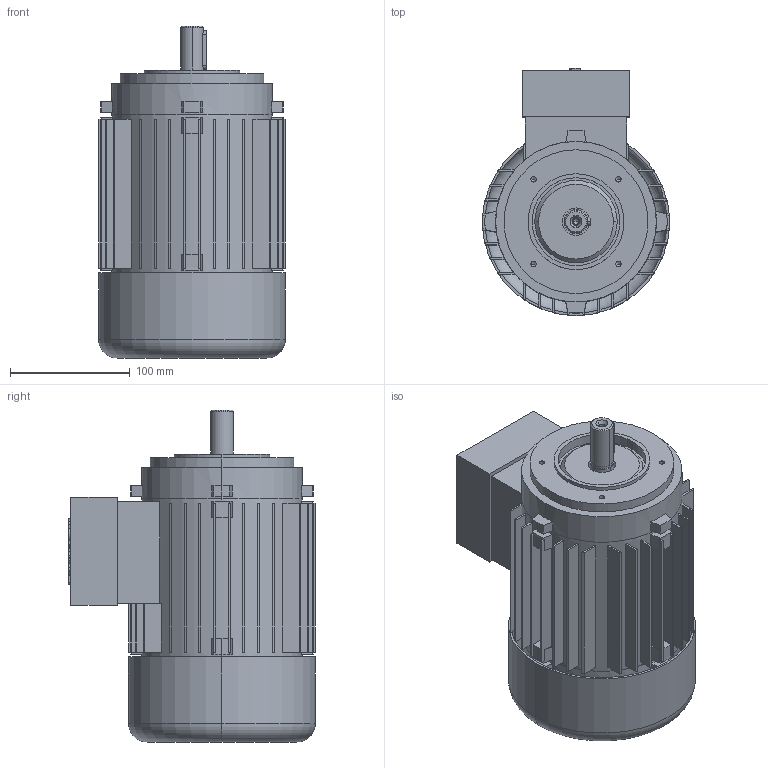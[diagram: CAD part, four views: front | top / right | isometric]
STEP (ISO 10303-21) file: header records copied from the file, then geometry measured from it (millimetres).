
FILE_DESCRIPTION (( 'STEP AP214' ), '1' );
FILE_NAME ('20.18270-C 5AZ 80 B14 small STANDK.STEP', '2018-07-10T08:08:59', ( '' ), ( '' ), 'SwSTEP 2.0', 'SolidWorks 2018', '' );
FILE_SCHEMA (( 'AUTOMOTIVE_DESIGN' ));
Length unit declared in the file: millimetre
Products named in the file (1): 20.18270-C 5AZ 80 B14 small STANDK
Bounding box: 156 x 206 x 277 mm (x, y, z)
Volume: 1447307.9 mm3; surface area: 474572.3 mm2
Topology: 9 solids, 9 shells, 503 faces, 1252 edges, 819 vertices
Faces by surface type: plane 312, cylinder 148, cone 30, bspline 9, torus 4
Entity records: 15187 total; most frequent: CARTESIAN_POINT 2769, DIRECTION 2638, ORIENTED_EDGE 2484, EDGE_CURVE 1242, AXIS2_PLACEMENT_3D 930, VERTEX_POINT 819, VECTOR 778, LINE 778
